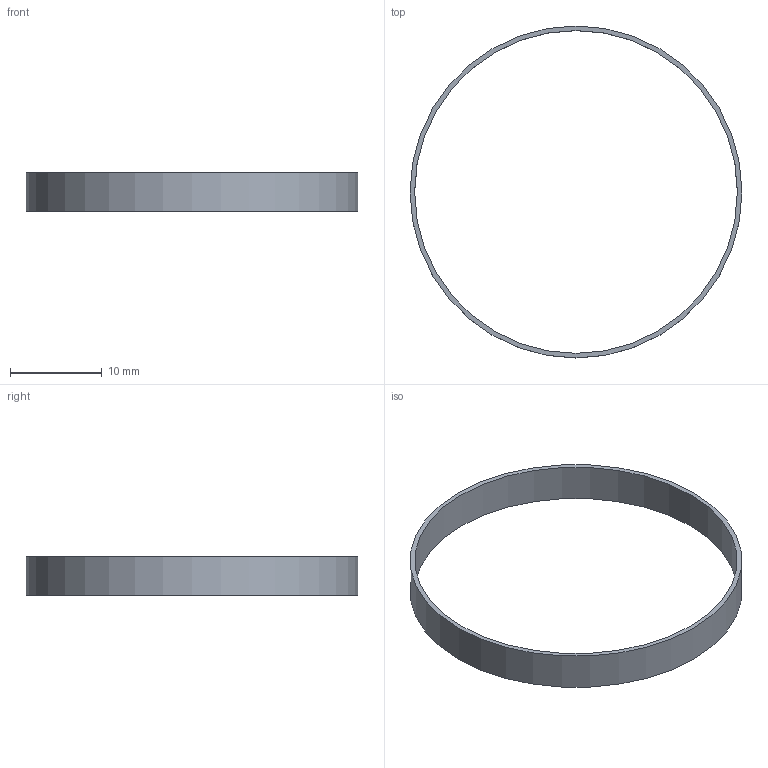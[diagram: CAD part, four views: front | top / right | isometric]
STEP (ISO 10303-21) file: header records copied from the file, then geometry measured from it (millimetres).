
FILE_DESCRIPTION(('Open CASCADE Model'),'2;1');
FILE_NAME('Open CASCADE Shape Model','2026-11-10T21:02:46',('Author'),( 'Open CASCADE'),'Open CASCADE STEP processor 7.9','Open CASCADE 7.9' ,'Unknown');
FILE_SCHEMA(('AUTOMOTIVE_DESIGN { 1 0 10303 214 1 1 1 1 }'));
Length unit declared in the file: millimetre
Products named in the file (1): Open CASCADE STEP translator 7.9 8
Bounding box: 36.1 x 36.1 x 4.15 mm (x, y, z)
Volume: 232.2 mm3; surface area: 1040.7 mm2
Topology: 1 solids, 1 shells, 4 faces, 6 edges, 4 vertices
Faces by surface type: cylinder 2, plane 2
Full cylindrical faces by diameter (mm): 35.1 x1, 36.1 x1
Entity records: 186 total; most frequent: DIRECTION 32, CARTESIAN_POINT 27, ORIENTED_EDGE 12, PCURVE 12, DEFINITIONAL_REPRESENTATION 12, LINE 10, VECTOR 10, AXIS2_PLACEMENT_3D 9
